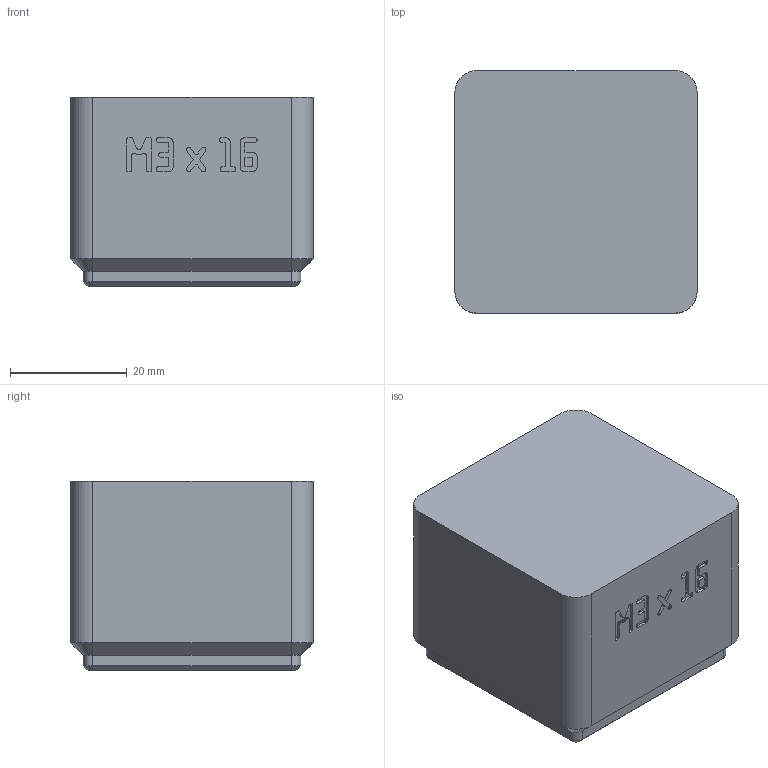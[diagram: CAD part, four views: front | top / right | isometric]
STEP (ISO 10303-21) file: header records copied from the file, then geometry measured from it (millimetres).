
FILE_DESCRIPTION(('Open CASCADE Model'),'2;1');
FILE_NAME('Open CASCADE Shape Model','2026-11-03T16:22:28',('Author'),( 'Open CASCADE'),'Open CASCADE STEP processor 8.0','build123d', 'Unknown');
FILE_SCHEMA(('AUTOMOTIVE_DESIGN { 1 0 10303 214 1 1 1 1 }'));
Products named in the file (1): COMPOUND
Bounding box: 41.5 x 41.5 x 32.4 mm (x, y, z)
Volume: 15957 mm3; surface area: 15732.2 mm2
Topology: 1 solids, 2 shells, 1145 faces, 3344 edges, 2216 vertices
Faces by surface type: plane 1109, cylinder 16, cone 12, bspline 8
Entity records: 80506 total; most frequent: CARTESIAN_POINT 13658, DIRECTION 12208, LINE 9828, VECTOR 9828, ORIENTED_EDGE 6688, PCURVE 6688, DEFINITIONAL_REPRESENTATION 6688, EDGE_CURVE 3344
